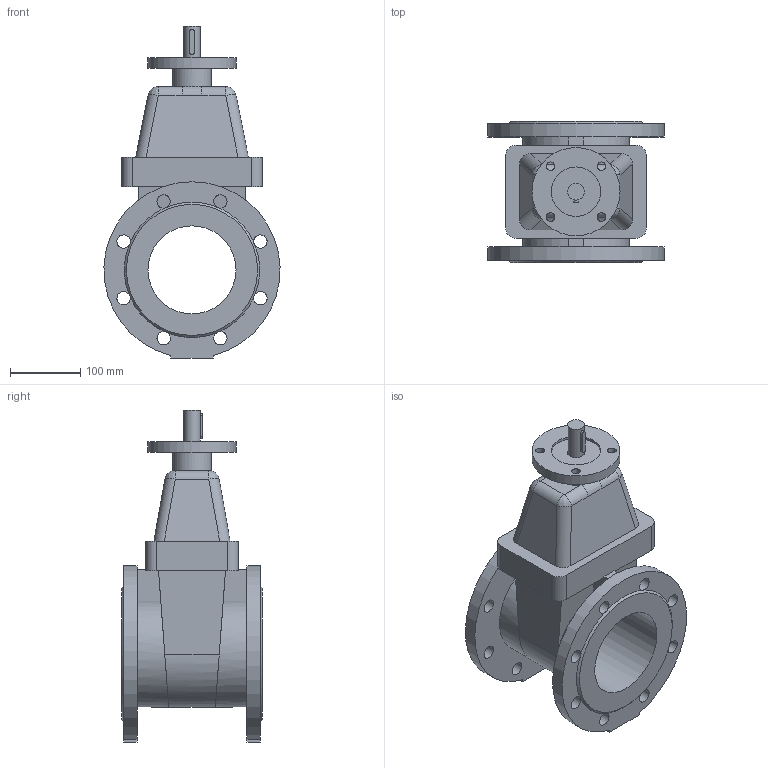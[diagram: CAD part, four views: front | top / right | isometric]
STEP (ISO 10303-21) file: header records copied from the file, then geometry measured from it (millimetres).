
FILE_DESCRIPTION(('STEP AP203'), '1');
FILE_NAME('Çàäâèæêà 47GVA DN125 PN10_PN16 áåç èñïîëíèò. ìåõ.', '', ('UNSPECIFIED'), ('UNSPECIFIED'), 'ASCON STEP Converter 1.6', 'ASCON Math Kernel', '');
FILE_SCHEMA(('CONFIG_CONTROL_DESIGN'));
Length unit declared in the file: millimetre
Bounding box: 249.84 x 200 x 471 mm (x, y, z)
Volume: 5749458.6 mm3; surface area: 484532.8 mm2
Topology: 1 solids, 1 shells, 122 faces, 353 edges, 225 vertices
Faces by surface type: plane 59, cylinder 54, bspline 7, cone 2
Full cylindrical faces by diameter (mm): 12 x4, 19 x16, 24 x1, 55 x1, 70 x1, 125 x2
Entity records: 6428 total; most frequent: CARTESIAN_POINT 2238, DIRECTION 654, ORIENTED_EDGE 644, EDGE_CURVE 322, AXIS2_PLACEMENT_3D 253, VERTEX_POINT 225, EDGE_LOOP 187, FACE_BOUND 152
